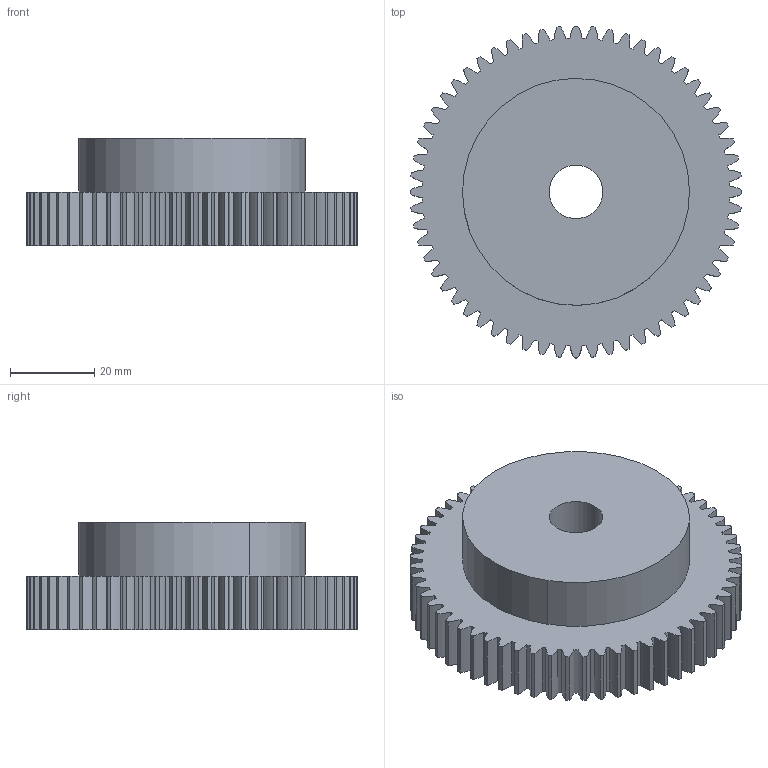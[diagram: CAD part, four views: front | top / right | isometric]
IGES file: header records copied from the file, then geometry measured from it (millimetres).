
Global section: file name: C:\Documents and Settings\Administrator\Desktop\Transfer Temp\gss-2060.igs; native system: AutoDesk Inventor R2.0 ; preprocessor: AutoDesk Inventor Iges Exporter R2.0; author: No Author specified; organization: No Organization specified; date: 20011229.164032; units: inch
Bounding box: 78.74 x 78.74 x 25.4 mm (x, y, z)
Surface area: 18060.9 mm2 (no closed solid volume)
Topology: 0 solids, 0 shells, 247 faces, 1464 edges, 1464 vertices
Faces by surface type: revolution 242, bspline 5
